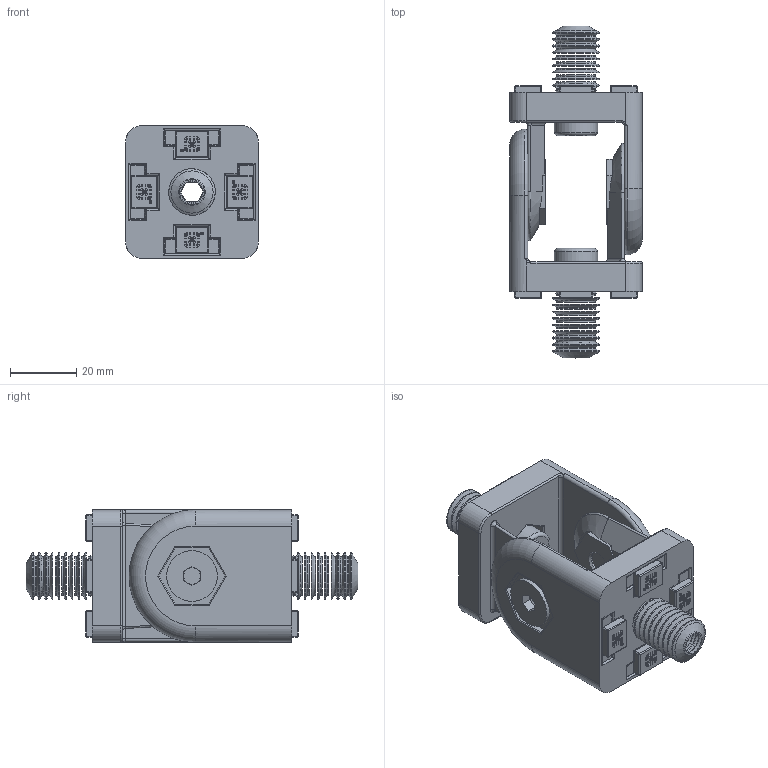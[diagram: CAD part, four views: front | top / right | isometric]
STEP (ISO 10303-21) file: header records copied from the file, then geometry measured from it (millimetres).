
FILE_DESCRIPTION(/* description */ ('Giunto mobile 40x40 con viti e boccole'),/* implementation_level */ '2;1');
FILE_NAME(/* name */ 'C:\omnitec\Desktop\Accessori Complementari\JM40-40A.stp',/* time_stamp */ '2021-02-19T15:11:38+01:00',/* author */ ('omnitec'),/* organization */ ('Microsoft'),/* preprocessor_version */ 'ST-DEVELOPER v18.1',/* originating_system */ 'Autodesk Inventor 2021',/* authorisation */ '');
FILE_SCHEMA (('AUTOMOTIVE_DESIGN { 1 0 10303 214 3 1 1 }'));
Length unit declared in the file: millimetre
Products named in the file (1): JM40-40A
Bounding box: 40.32 x 100 x 40 mm (x, y, z)
Surface area: 26264.9 mm2 (no closed solid volume)
Topology: 0 solids, 64 shells, 1052 faces, 3967 edges, 2780 vertices
Faces by surface type: plane 564, cylinder 342, cone 50, torus 42, sphere 32, bspline 22
Full cylindrical faces by diameter (mm): 0.572 x8, 0.694 x4, 0.867 x8, 6.6 x2, 8 x6, 13 x2, 14 x18, 15.24 x2
Entity records: 44020 total; most frequent: CARTESIAN_POINT 10904, DIRECTION 6943, ORIENTED_EDGE 6086, EDGE_CURVE 3929, VERTEX_POINT 2780, LINE 2685, VECTOR 2685, AXIS2_PLACEMENT_3D 2129
